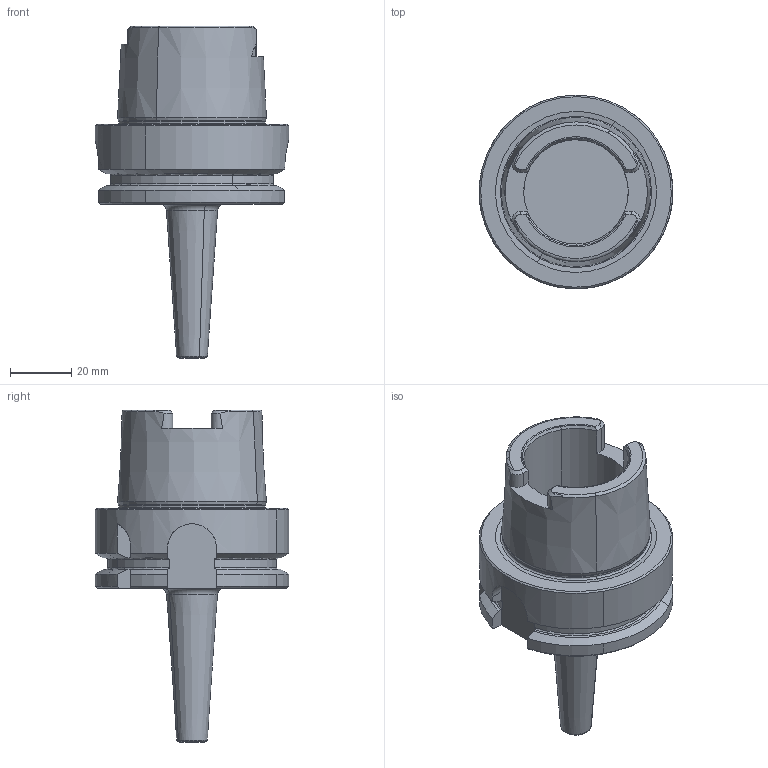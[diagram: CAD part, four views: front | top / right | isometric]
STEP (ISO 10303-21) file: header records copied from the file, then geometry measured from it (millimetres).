
FILE_DESCRIPTION(('CATIA V5 STEP','CAx-IF Rec.Pracs.--- Model Styling and Organization---1.2---2011-12-15'),'2;1');
FILE_NAME('\\nas01\drv1\utils\eitdev\rte\eit\transmagicconvert\db\out\4504562 L.stp','2014-03-23T06:05:39+00:00',('none'),('none'),'CATIA Version 5 Release 21 SP 5 (IN-10)','CATIA V5 STEP AP214','none');
FILE_SCHEMA(('AUTOMOTIVE_DESIGN { 1 0 10303 214 1 1 1 1 }'));
Length unit declared in the file: millimetre
Products named in the file (1): 60790065_0 Holder-Tool HSK A 63 SRK 4X 50
Bounding box: 63 x 63 x 108 mm (x, y, z)
Volume: 98147.1 mm3; surface area: 22812.2 mm2
Topology: 1 solids, 1 shells, 124 faces, 323 edges, 204 vertices
Faces by surface type: plane 41, cone 35, cylinder 24, torus 24
Entity records: 3830 total; most frequent: CARTESIAN_POINT 1144, ORIENTED_EDGE 646, DIRECTION 392, EDGE_CURVE 323, AXIS2_PLACEMENT_3D 207, VERTEX_POINT 204, CIRCLE 137, EDGE_LOOP 127
